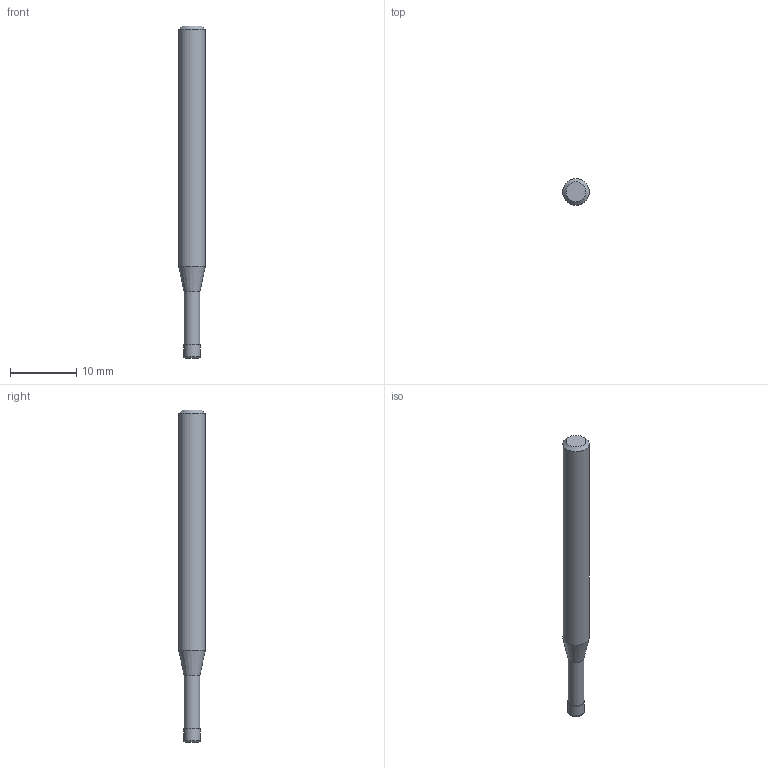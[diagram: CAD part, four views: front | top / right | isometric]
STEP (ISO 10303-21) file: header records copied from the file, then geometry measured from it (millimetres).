
FILE_DESCRIPTION((''),'2;1');
FILE_NAME('C:\Users\nsx150\AppData\Local\Temp\Mastercam 2021\17T8Q8S9EB\TEMP.step','2021-04-21T14:38:29',(''),(''),'STEP Write','Mastercam 2021 ... CNC Software, Inc.','');
FILE_SCHEMA(('AUTOMOTIVE_DESIGN'));
Length unit declared in the file: millimetre
Products named in the file (1): None
Bounding box: 4 x 4 x 50 mm (x, y, z)
Volume: 530.3 mm3; surface area: 591.9 mm2
Topology: 2 solids, 2 shells, 10 faces, 14 edges, 8 vertices
Faces by surface type: plane 4, cylinder 3, cone 2, torus 1
Full cylindrical faces by diameter (mm): 2.39 x1, 2.5 x1, 4 x1
Entity records: 232 total; most frequent: DIRECTION 40, CARTESIAN_POINT 28, AXIS2_PLACEMENT_3D 20, ORIENTED_EDGE 16, EDGE_LOOP 16, STYLED_ITEM 13, ADVANCED_FACE 10, FACE_BOUND 10
